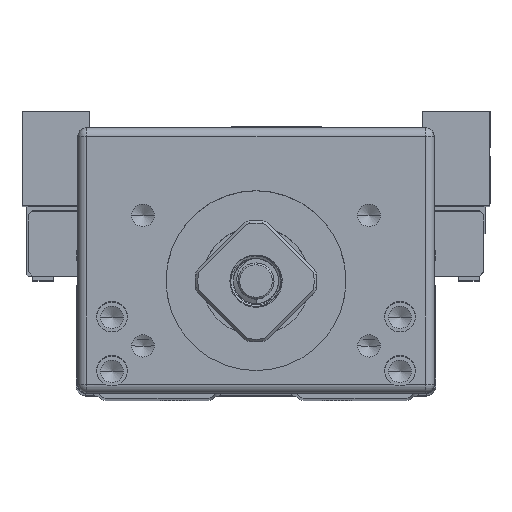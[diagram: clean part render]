
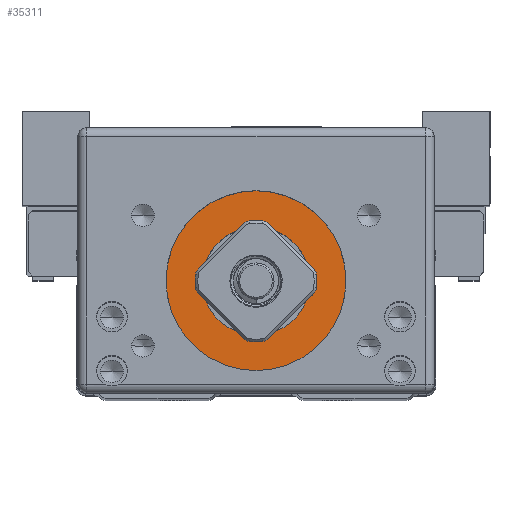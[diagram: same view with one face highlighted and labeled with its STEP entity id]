
A CAD part, top view. The second image highlights one B-rep face of the part: STEP entity #35311.
In plain terms, the highlighted planar face has unit normal (0, 0, 1).
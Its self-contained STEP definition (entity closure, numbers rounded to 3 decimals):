
#73 = DIRECTION ( 'NONE',  ( -1., 0., 0. ) ) ;
#104 = LINE ( 'NONE', #44459, #18018 ) ;
#722 = CARTESIAN_POINT ( 'NONE',  ( -12., 29., 13. ) ) ;
#967 = CARTESIAN_POINT ( 'NONE',  ( 12., 29., 13. ) ) ;
#1009 = ORIENTED_EDGE ( 'NONE', *, *, #2124, .T. ) ;
#1139 = EDGE_CURVE ( 'NONE', #41811, #19736, #12305, .T. ) ;
#1428 = DIRECTION ( 'NONE',  ( 0., 1., 0. ) ) ;
#1563 = LINE ( 'NONE', #12631, #38651 ) ;
#2004 = LINE ( 'NONE', #10894, #11506 ) ;
#2124 = EDGE_CURVE ( 'NONE', #20822, #22498, #9432, .T. ) ;
#3684 = VERTEX_POINT ( 'NONE', #7282 ) ;
#3820 = DIRECTION ( 'NONE',  ( 0., -1., 0. ) ) ;
#4580 = DIRECTION ( 'NONE',  ( 0., 0., -1. ) ) ;
#5125 = DIRECTION ( 'NONE',  ( -1., 0., 0. ) ) ;
#5401 = EDGE_CURVE ( 'NONE', #46219, #15751, #26679, .T. ) ;
#5730 = VECTOR ( 'NONE', #6486, 1000. ) ;
#5837 = VECTOR ( 'NONE', #41085, 1000. ) ;
#6486 = DIRECTION ( 'NONE',  ( 1., 0., 0. ) ) ;
#6665 = CIRCLE ( 'NONE', #32574, 10. ) ;
#6922 = CARTESIAN_POINT ( 'NONE',  ( -12., 29., 13. ) ) ;
#7282 = CARTESIAN_POINT ( 'NONE',  ( -11.8, 24., 13. ) ) ;
#7508 = CIRCLE ( 'NONE', #31238, 10. ) ;
#7986 = CARTESIAN_POINT ( 'NONE',  ( -5.3, 4.52, 13. ) ) ;
#7988 = LINE ( 'NONE', #17095, #5730 ) ;
#8022 = CARTESIAN_POINT ( 'NONE',  ( -19.8, 24., 13. ) ) ;
#8195 = CARTESIAN_POINT ( 'NONE',  ( 0., 13., 13. ) ) ;
#8330 = EDGE_LOOP ( 'NONE', ( #42298, #22151, #44808, #23828, #11779, #46199, #31844, #40442, #26517, #22515, #44509, #1009, #20452, #14133 ) ) ;
#9000 = CARTESIAN_POINT ( 'NONE',  ( 0., 13., 13. ) ) ;
#9102 = VERTEX_POINT ( 'NONE', #29498 ) ;
#9373 = VECTOR ( 'NONE', #18356, 1000. ) ;
#9432 = LINE ( 'NONE', #6922, #46549 ) ;
#9695 = CARTESIAN_POINT ( 'NONE',  ( -6., 13., 13. ) ) ;
#9837 = CARTESIAN_POINT ( 'NONE',  ( 11.8, 24., 13. ) ) ;
#10262 = VERTEX_POINT ( 'NONE', #9695 ) ;
#10894 = CARTESIAN_POINT ( 'NONE',  ( 12., 24., 13. ) ) ;
#11463 = PLANE ( 'NONE',  #20748 ) ;
#11506 = VECTOR ( 'NONE', #73, 1000. ) ;
#11654 = VERTEX_POINT ( 'NONE', #46506 ) ;
#11676 = CARTESIAN_POINT ( 'NONE',  ( -11.8, 6.5, 13. ) ) ;
#11779 = ORIENTED_EDGE ( 'NONE', *, *, #13161, .T. ) ;
#11788 = DIRECTION ( 'NONE',  ( 1., 0., 0. ) ) ;
#12305 = LINE ( 'NONE', #18019, #18442 ) ;
#12597 = DIRECTION ( 'NONE',  ( -1., 0., 0. ) ) ;
#12631 = CARTESIAN_POINT ( 'NONE',  ( 5.3, 1.5, 13. ) ) ;
#13045 = CARTESIAN_POINT ( 'NONE',  ( 12., 24., 13. ) ) ;
#13161 = EDGE_CURVE ( 'NONE', #40504, #22683, #1563, .T. ) ;
#14133 = ORIENTED_EDGE ( 'NONE', *, *, #21054, .T. ) ;
#14346 = LINE ( 'NONE', #37602, #40791 ) ;
#15347 = EDGE_LOOP ( 'NONE', ( #20637, #39090 ) ) ;
#15702 = DIRECTION ( 'NONE',  ( 0., 0., 1. ) ) ;
#15751 = VERTEX_POINT ( 'NONE', #36239 ) ;
#15898 = VERTEX_POINT ( 'NONE', #7986 ) ;
#17095 = CARTESIAN_POINT ( 'NONE',  ( 7.599, 6.5, 13. ) ) ;
#17161 = EDGE_CURVE ( 'NONE', #9102, #17513, #28468, .T. ) ;
#17513 = VERTEX_POINT ( 'NONE', #9837 ) ;
#17853 = CIRCLE ( 'NONE', #30762, 6. ) ;
#18010 = EDGE_CURVE ( 'NONE', #40504, #26748, #14346, .T. ) ;
#18018 = VECTOR ( 'NONE', #1428, 1000. ) ;
#18019 = CARTESIAN_POINT ( 'NONE',  ( 12., 29., 13. ) ) ;
#18177 = CIRCLE ( 'NONE', #24362, 6. ) ;
#18356 = DIRECTION ( 'NONE',  ( 0., 1., 0. ) ) ;
#18442 = VECTOR ( 'NONE', #3820, 1000. ) ;
#18707 = VECTOR ( 'NONE', #25824, 1000. ) ;
#19339 = CARTESIAN_POINT ( 'NONE',  ( 0., 13., 13. ) ) ;
#19736 = VERTEX_POINT ( 'NONE', #13045 ) ;
#20344 = CARTESIAN_POINT ( 'NONE',  ( -5.3, 1.5, 13. ) ) ;
#20452 = ORIENTED_EDGE ( 'NONE', *, *, #23597, .F. ) ;
#20637 = ORIENTED_EDGE ( 'NONE', *, *, #37393, .T. ) ;
#20748 = AXIS2_PLACEMENT_3D ( 'NONE', #8022, #4580, #29681 ) ;
#20822 = VERTEX_POINT ( 'NONE', #21532 ) ;
#20929 = EDGE_CURVE ( 'NONE', #20822, #41811, #36729, .T. ) ;
#21054 = EDGE_CURVE ( 'NONE', #3684, #46219, #23773, .T. ) ;
#21376 = CARTESIAN_POINT ( 'NONE',  ( -11.8, 24., 13. ) ) ;
#21532 = CARTESIAN_POINT ( 'NONE',  ( -12., 29., 13. ) ) ;
#22151 = ORIENTED_EDGE ( 'NONE', *, *, #36739, .T. ) ;
#22498 = VERTEX_POINT ( 'NONE', #29911 ) ;
#22515 = ORIENTED_EDGE ( 'NONE', *, *, #1139, .F. ) ;
#22683 = VERTEX_POINT ( 'NONE', #31774 ) ;
#22962 = DIRECTION ( 'NONE',  ( -0.76, -0.65, 0. ) ) ;
#22995 = FACE_OUTER_BOUND ( 'NONE', #8330, .T. ) ;
#23597 = EDGE_CURVE ( 'NONE', #3684, #22498, #33576, .T. ) ;
#23773 = LINE ( 'NONE', #37452, #5837 ) ;
#23828 = ORIENTED_EDGE ( 'NONE', *, *, #18010, .F. ) ;
#23987 = VECTOR ( 'NONE', #32247, 1000. ) ;
#24362 = AXIS2_PLACEMENT_3D ( 'NONE', #9000, #34145, #12597 ) ;
#24780 = DIRECTION ( 'NONE',  ( 0., -1., 0. ) ) ;
#25275 = FACE_BOUND ( 'NONE', #15347, .T. ) ;
#25560 = VECTOR ( 'NONE', #29405, 1000. ) ;
#25784 = CARTESIAN_POINT ( 'NONE',  ( -11.8, 6.5, 13. ) ) ;
#25824 = DIRECTION ( 'NONE',  ( 1., 0., 0. ) ) ;
#26517 = ORIENTED_EDGE ( 'NONE', *, *, #40490, .F. ) ;
#26679 = LINE ( 'NONE', #25784, #25560 ) ;
#26748 = VERTEX_POINT ( 'NONE', #20344 ) ;
#28216 = EDGE_CURVE ( 'NONE', #22683, #34005, #7508, .T. ) ;
#28468 = LINE ( 'NONE', #39927, #9373 ) ;
#29267 = EDGE_CURVE ( 'NONE', #34005, #9102, #7988, .T. ) ;
#29405 = DIRECTION ( 'NONE',  ( 1., 0., 0. ) ) ;
#29498 = CARTESIAN_POINT ( 'NONE',  ( 11.8, 6.5, 13. ) ) ;
#29681 = DIRECTION ( 'NONE',  ( 0., -1., 0. ) ) ;
#29911 = CARTESIAN_POINT ( 'NONE',  ( -12., 24., 13. ) ) ;
#30762 = AXIS2_PLACEMENT_3D ( 'NONE', #8195, #33321, #11788 ) ;
#31238 = AXIS2_PLACEMENT_3D ( 'NONE', #37252, #15702, #40885 ) ;
#31774 = CARTESIAN_POINT ( 'NONE',  ( 5.3, 4.52, 13. ) ) ;
#31844 = ORIENTED_EDGE ( 'NONE', *, *, #29267, .T. ) ;
#32247 = DIRECTION ( 'NONE',  ( -1., 0., 0. ) ) ;
#32574 = AXIS2_PLACEMENT_3D ( 'NONE', #19339, #44527, #22962 ) ;
#33321 = DIRECTION ( 'NONE',  ( 0., 0., -1. ) ) ;
#33576 = LINE ( 'NONE', #21376, #23987 ) ;
#34005 = VERTEX_POINT ( 'NONE', #44158 ) ;
#34070 = EDGE_CURVE ( 'NONE', #26748, #15898, #104, .T. ) ;
#34145 = DIRECTION ( 'NONE',  ( 0., 0., -1. ) ) ;
#34174 = DIRECTION ( 'NONE',  ( 0., 1., 0. ) ) ;
#35311 = ADVANCED_FACE ( 'NONE', ( #25275, #22995 ), #11463, .F. ) ;
#36239 = CARTESIAN_POINT ( 'NONE',  ( -7.599, 6.5, 13. ) ) ;
#36729 = LINE ( 'NONE', #722, #18707 ) ;
#36739 = EDGE_CURVE ( 'NONE', #15751, #15898, #6665, .T. ) ;
#37252 = CARTESIAN_POINT ( 'NONE',  ( 0., 13., 13. ) ) ;
#37393 = EDGE_CURVE ( 'NONE', #11654, #10262, #17853, .T. ) ;
#37452 = CARTESIAN_POINT ( 'NONE',  ( -11.8, 24., 13. ) ) ;
#37602 = CARTESIAN_POINT ( 'NONE',  ( 5.3, 1.5, 13. ) ) ;
#38651 = VECTOR ( 'NONE', #34174, 1000. ) ;
#39090 = ORIENTED_EDGE ( 'NONE', *, *, #46412, .T. ) ;
#39763 = CARTESIAN_POINT ( 'NONE',  ( 5.3, 1.5, 13. ) ) ;
#39927 = CARTESIAN_POINT ( 'NONE',  ( 11.8, 6.5, 13. ) ) ;
#40442 = ORIENTED_EDGE ( 'NONE', *, *, #17161, .T. ) ;
#40490 = EDGE_CURVE ( 'NONE', #19736, #17513, #2004, .T. ) ;
#40504 = VERTEX_POINT ( 'NONE', #39763 ) ;
#40791 = VECTOR ( 'NONE', #5125, 1000. ) ;
#40885 = DIRECTION ( 'NONE',  ( 0.53, -0.848, 0. ) ) ;
#41085 = DIRECTION ( 'NONE',  ( 0., -1., 0. ) ) ;
#41811 = VERTEX_POINT ( 'NONE', #967 ) ;
#42298 = ORIENTED_EDGE ( 'NONE', *, *, #5401, .T. ) ;
#44158 = CARTESIAN_POINT ( 'NONE',  ( 7.599, 6.5, 13. ) ) ;
#44459 = CARTESIAN_POINT ( 'NONE',  ( -5.3, 1.5, 13. ) ) ;
#44509 = ORIENTED_EDGE ( 'NONE', *, *, #20929, .F. ) ;
#44527 = DIRECTION ( 'NONE',  ( 0., 0., 1. ) ) ;
#44808 = ORIENTED_EDGE ( 'NONE', *, *, #34070, .F. ) ;
#46199 = ORIENTED_EDGE ( 'NONE', *, *, #28216, .T. ) ;
#46219 = VERTEX_POINT ( 'NONE', #11676 ) ;
#46412 = EDGE_CURVE ( 'NONE', #10262, #11654, #18177, .T. ) ;
#46506 = CARTESIAN_POINT ( 'NONE',  ( 6., 13., 13. ) ) ;
#46549 = VECTOR ( 'NONE', #24780, 1000. ) ;
